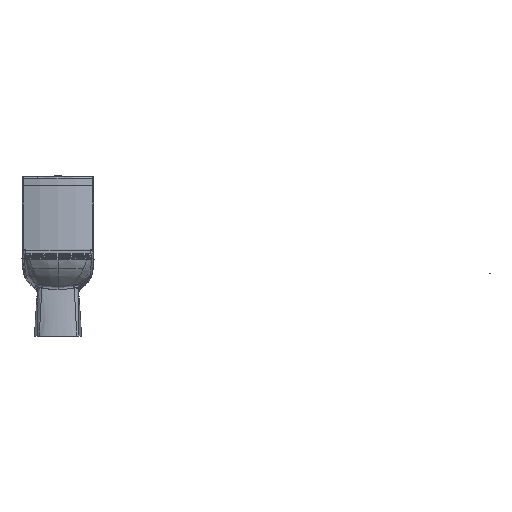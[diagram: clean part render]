
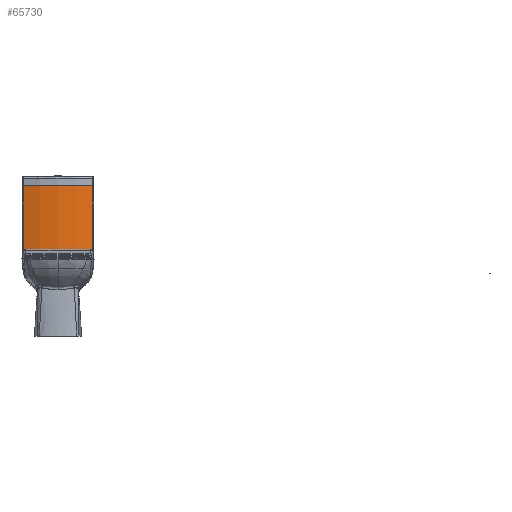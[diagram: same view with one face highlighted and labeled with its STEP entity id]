
A CAD part, top view. The second image highlights one B-rep face of the part: STEP entity #65730.
In plain terms, the highlighted cylindrical face has radius 563.396 mm (diameter 1126.79 mm), a partial arc.
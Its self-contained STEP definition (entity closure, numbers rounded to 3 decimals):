
#1958 = CARTESIAN_POINT ( 'NONE',  ( 193.993, 207.99, -506.656 ) ) ;
#3128 = AXIS2_PLACEMENT_3D ( 'NONE', #133613, #28543, #135858 ) ;
#4516 = AXIS2_PLACEMENT_3D ( 'NONE', #114094, #29522, #187097 ) ;
#25139 = VECTOR ( 'NONE', #170136, 1000. ) ;
#28543 = DIRECTION ( 'NONE',  ( 0., -1., 0. ) ) ;
#29522 = DIRECTION ( 'NONE',  ( 0., 1., 0. ) ) ;
#41296 = EDGE_CURVE ( 'NONE', #94934, #117648, #172434, .T. ) ;
#47054 = CARTESIAN_POINT ( 'NONE',  ( 193.993, 559.39, -506.656 ) ) ;
#54372 = DIRECTION ( 'NONE',  ( 0., -1., 0. ) ) ;
#61065 = EDGE_CURVE ( 'NONE', #61939, #176627, #71760, .T. ) ;
#61939 = VERTEX_POINT ( 'NONE', #1958 ) ;
#63920 = LINE ( 'NONE', #221530, #25139 ) ;
#65730 = ADVANCED_FACE ( 'NONE', ( #169029 ), #186134, .T. ) ;
#71760 = CIRCLE ( 'NONE', #155608, 563.396 ) ;
#82211 = CARTESIAN_POINT ( 'NONE',  ( 193.993, 604.99, -506.656 ) ) ;
#94934 = VERTEX_POINT ( 'NONE', #120806 ) ;
#100931 = VECTOR ( 'NONE', #151871, 1000. ) ;
#114094 = CARTESIAN_POINT ( 'NONE',  ( 18.482, 559.39, -1042.016 ) ) ;
#117648 = VERTEX_POINT ( 'NONE', #47054 ) ;
#120806 = CARTESIAN_POINT ( 'NONE',  ( -157.03, 559.39, -506.656 ) ) ;
#133613 = CARTESIAN_POINT ( 'NONE',  ( 18.482, 604.99, -1042.016 ) ) ;
#135112 = ORIENTED_EDGE ( 'NONE', *, *, #206322, .T. ) ;
#135858 = DIRECTION ( 'NONE',  ( 1., 0., 0. ) ) ;
#151871 = DIRECTION ( 'NONE',  ( 0., 1., 0. ) ) ;
#155608 = AXIS2_PLACEMENT_3D ( 'NONE', #193720, #54372, #194851 ) ;
#158523 = CARTESIAN_POINT ( 'NONE',  ( -157.03, 207.99, -506.656 ) ) ;
#162679 = ORIENTED_EDGE ( 'NONE', *, *, #41296, .F. ) ;
#163516 = EDGE_CURVE ( 'NONE', #94934, #176627, #63920, .T. ) ;
#169029 = FACE_OUTER_BOUND ( 'NONE', #189783, .T. ) ;
#170136 = DIRECTION ( 'NONE',  ( 0., -1., 0. ) ) ;
#172434 = CIRCLE ( 'NONE', #4516, 563.396 ) ;
#176627 = VERTEX_POINT ( 'NONE', #158523 ) ;
#183937 = LINE ( 'NONE', #82211, #100931 ) ;
#186134 = CYLINDRICAL_SURFACE ( 'NONE', #3128, 563.396 ) ;
#186626 = ORIENTED_EDGE ( 'NONE', *, *, #61065, .F. ) ;
#187097 = DIRECTION ( 'NONE',  ( -1., 0., 0. ) ) ;
#189783 = EDGE_LOOP ( 'NONE', ( #135112, #162679, #214137, #186626 ) ) ;
#193720 = CARTESIAN_POINT ( 'NONE',  ( 18.482, 207.99, -1042.016 ) ) ;
#194851 = DIRECTION ( 'NONE',  ( 1., 0., 0. ) ) ;
#206322 = EDGE_CURVE ( 'NONE', #61939, #117648, #183937, .T. ) ;
#214137 = ORIENTED_EDGE ( 'NONE', *, *, #163516, .T. ) ;
#221530 = CARTESIAN_POINT ( 'NONE',  ( -157.03, 383.69, -506.656 ) ) ;
